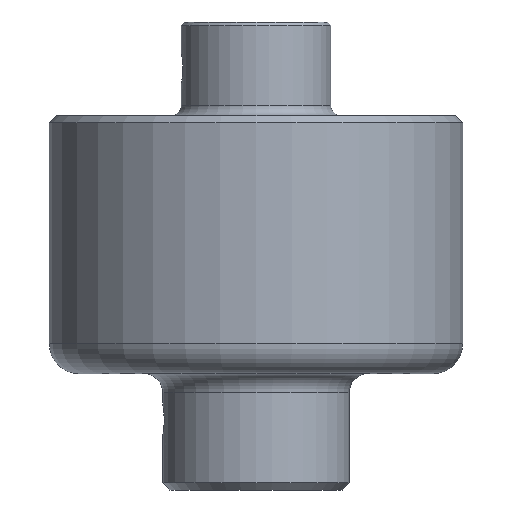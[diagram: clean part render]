
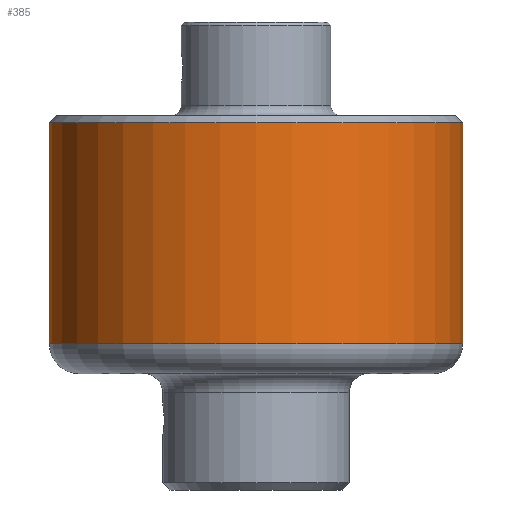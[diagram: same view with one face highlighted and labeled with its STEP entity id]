
A CAD part, front view. The second image highlights one B-rep face of the part: STEP entity #385.
In plain terms, the highlighted cylindrical face has radius 44.196 mm (diameter 88.392 mm), a partial arc.
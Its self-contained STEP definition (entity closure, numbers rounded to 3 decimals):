
#44 = FACE_OUTER_BOUND ( 'NONE', #1293, .T. ) ;
#60 = DIRECTION ( 'NONE',  ( 1., 0., 0. ) ) ;
#126 = CARTESIAN_POINT ( 'NONE',  ( 44.196, 0., 28.448 ) ) ;
#152 = DIRECTION ( 'NONE',  ( 0., 0., 1. ) ) ;
#159 = ORIENTED_EDGE ( 'NONE', *, *, #1558, .F. ) ;
#184 = CARTESIAN_POINT ( 'NONE',  ( 0., 0., 28.448 ) ) ;
#231 = CARTESIAN_POINT ( 'NONE',  ( -44.196, 0., -18.796 ) ) ;
#233 = ORIENTED_EDGE ( 'NONE', *, *, #359, .F. ) ;
#287 = CIRCLE ( 'NONE', #1716, 44.196 ) ;
#346 = CYLINDRICAL_SURFACE ( 'NONE', #1806, 44.196 ) ;
#359 = EDGE_CURVE ( 'NONE', #1735, #1729, #1742, .T. ) ;
#374 = ORIENTED_EDGE ( 'NONE', *, *, #1152, .T. ) ;
#385 = ADVANCED_FACE ( 'NONE', ( #44 ), #346, .T. ) ;
#471 = CARTESIAN_POINT ( 'NONE',  ( -44.196, 0., 0. ) ) ;
#491 = AXIS2_PLACEMENT_3D ( 'NONE', #184, #1057, #936 ) ;
#496 = VECTOR ( 'NONE', #152, 1000. ) ;
#590 = CARTESIAN_POINT ( 'NONE',  ( 44.196, 0., -18.796 ) ) ;
#658 = DIRECTION ( 'NONE',  ( 0., 0., 1. ) ) ;
#810 = VERTEX_POINT ( 'NONE', #231 ) ;
#844 = ORIENTED_EDGE ( 'NONE', *, *, #1365, .T. ) ;
#917 = CARTESIAN_POINT ( 'NONE',  ( 0., 0., 0. ) ) ;
#936 = DIRECTION ( 'NONE',  ( 1., 0., 0. ) ) ;
#1049 = DIRECTION ( 'NONE',  ( 0., 0., 1. ) ) ;
#1057 = DIRECTION ( 'NONE',  ( 0., 0., 1. ) ) ;
#1152 = EDGE_CURVE ( 'NONE', #1690, #1729, #1705, .T. ) ;
#1193 = DIRECTION ( 'NONE',  ( 0., 0., 1. ) ) ;
#1214 = CARTESIAN_POINT ( 'NONE',  ( 0., 0., -18.796 ) ) ;
#1293 = EDGE_LOOP ( 'NONE', ( #159, #844, #374, #233 ) ) ;
#1365 = EDGE_CURVE ( 'NONE', #810, #1690, #287, .T. ) ;
#1384 = LINE ( 'NONE', #471, #1592 ) ;
#1553 = CARTESIAN_POINT ( 'NONE',  ( 44.196, 0., 0. ) ) ;
#1558 = EDGE_CURVE ( 'NONE', #810, #1735, #1384, .T. ) ;
#1592 = VECTOR ( 'NONE', #658, 1000. ) ;
#1690 = VERTEX_POINT ( 'NONE', #590 ) ;
#1705 = LINE ( 'NONE', #1553, #496 ) ;
#1716 = AXIS2_PLACEMENT_3D ( 'NONE', #1214, #1049, #60 ) ;
#1729 = VERTEX_POINT ( 'NONE', #126 ) ;
#1735 = VERTEX_POINT ( 'NONE', #1879 ) ;
#1742 = CIRCLE ( 'NONE', #491, 44.196 ) ;
#1782 = DIRECTION ( 'NONE',  ( 1., 0., 0. ) ) ;
#1806 = AXIS2_PLACEMENT_3D ( 'NONE', #917, #1193, #1782 ) ;
#1879 = CARTESIAN_POINT ( 'NONE',  ( -44.196, 0., 28.448 ) ) ;
